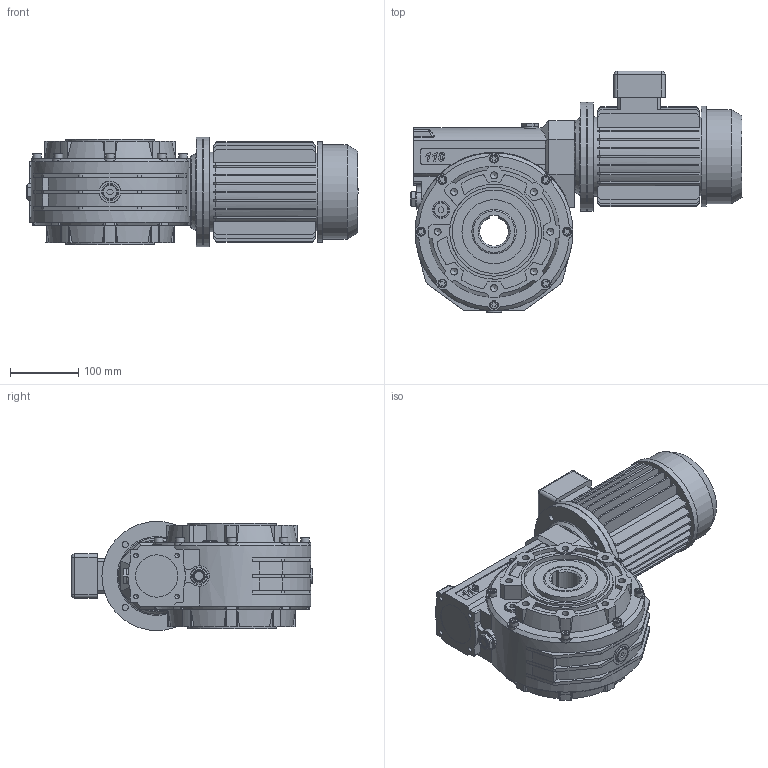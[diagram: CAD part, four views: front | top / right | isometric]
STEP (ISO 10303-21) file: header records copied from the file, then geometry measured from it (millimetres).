
FILE_DESCRIPTION( ( 'Unknown' ), '1' );
FILE_NAME( 'E:/services/configuratordownloads/customers/HYDROMEC/VSF/download/7457C67A27F5F351CB42CB49526C9277/STEP/7457C67A27F5F351CB42CB49526C9277.3d.stp', 'Unknown', ( 'Unknown' ), ( 'Unknown' ), 'PSStep 10.1', 'Unknown', ' ' );
FILE_SCHEMA( ( 'AUTOMOTIVE_DESIGN { 1 0 10303 214 1 1 1 1 }' ) );
Length unit declared in the file: millimetre
Products named in the file (1): 1108800N
Bounding box: 486 x 353.5 x 160 mm (x, y, z)
Volume: 9699205.7 mm3; surface area: 613173.7 mm2
Topology: 1 solids, 9 shells, 1068 faces, 2864 edges, 1883 vertices
Faces by surface type: plane 651, cylinder 301, cone 68, torus 18, extrusion 16, bspline 8, sphere 6
Full cylindrical faces by diameter (mm): 1.5 x1, 4.917 x6, 6.647 x4, 9 x4, 9.5 x8, 10.106 x16, 12.8 x8, 13 x1, 18 x1, 21 x1, 21.5 x1, 22 x2, 25 x4, 45 x2, 62 x1, 65 x2, 68 x1, 75 x1, 85 x1, 93.8 x1, 94 x1, 110 x1, 115.261 x1, 122 x2, 130 x2, 138 x2, 147 x1, 160 x2, 231 x1
Entity records: 44392 total; most frequent: CARTESIAN_POINT 7751, DIRECTION 5335, ORIENTED_EDGE 5272, EDGE_CURVE 2636, AXIS2_PLACEMENT_3D 1866, VERTEX_POINT 1819, VECTOR 1603, PRESENTATION_STYLE_ASSIGNMENT 1600
